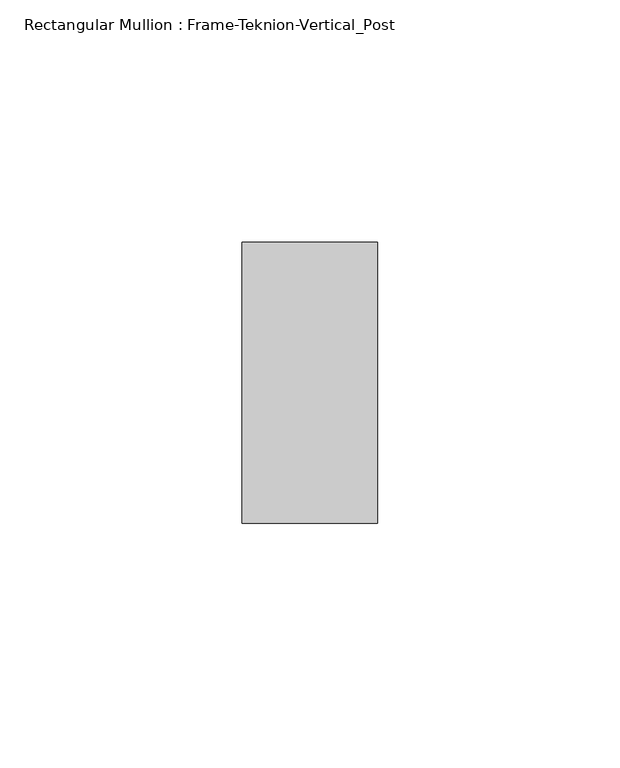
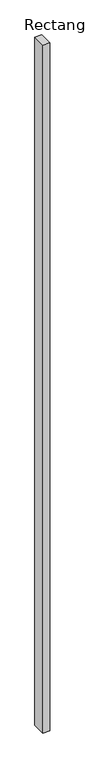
"""IFC4 building model written with IfcOpenShell, lengths in millimetres: member geometry, Rectangular Mullion : Frame-Teknion-Vertical_Post."""

import ifcopenshell
import ifcopenshell.guid

model = None  # the IFC model being written
_history = None  # IfcOwnerHistory: only IFC2X3 demands one
_inside = {}  # id of a spatial element -> (the spatial element, [elements in it])
_under = {}  # id of a project, library or spatial element -> (it, [spatial elements below it])
_declared = {}  # id of a project -> (the project, [libraries it declares])
_typed = {}  # id of a type object -> (the type object, [elements of that type])
_made_of = {}  # id of a material, layer set ... -> (it, [elements and type objects made of it])


def new_model(schema):
    """Start an empty IFC model of exactly this schema.

    Asked for "IFC4X3", IfcOpenShell would pick the latest addendum, in which some entities
    have other attributes; the version numbers below select the first issue.
    IFC2X3 requires an IfcOwnerHistory on every rooted entity: one is made here for all.
    """
    global model, _history
    if schema == "IFC4X3":
        model = ifcopenshell.file(schema_version=(4, 3, 0, 0))
    else:
        model = ifcopenshell.file(schema=schema)
    _inside.clear()
    _under.clear()
    _declared.clear()
    _typed.clear()
    _made_of.clear()
    _history = None
    if model.schema == "IFC2X3":
        org = make("IfcOrganization", Name="unknown")
        user = make(
            "IfcPersonAndOrganization",
            ThePerson=make("IfcPerson", FamilyName="unknown"),
            TheOrganization=org,
        )
        app = make(
            "IfcApplication",
            ApplicationDeveloper=org,
            Version="unknown",
            ApplicationFullName="unknown",
            ApplicationIdentifier="unknown",
        )
        _history = make(
            "IfcOwnerHistory",
            OwningUser=user,
            OwningApplication=app,
            ChangeAction="ADDED",
            CreationDate=0,
        )
    return model


def make(cls, **values):
    """One entity of the class cls with the attributes given. An attribute that is None is left unset."""
    return model.create_entity(
        cls, **{name: value for name, value in values.items() if value is not None}
    )


def rooted(cls, **values):
    """An entity with a GlobalId (a new one), such as an element, a storey or a relation."""
    return make(cls, GlobalId=ifcopenshell.guid.new(), OwnerHistory=_history, **values)


def si_unit(unit_type, name, prefix=None):
    """IfcSIUnit, for example si_unit("LENGTHUNIT", "METRE", prefix="MILLI")."""
    return make("IfcSIUnit", UnitType=unit_type, Prefix=prefix, Name=name)


def assignment(units):
    """IfcUnitAssignment: the units of a project."""
    return None if units is None else make("IfcUnitAssignment", Units=units)


def point(xyz):
    """IfcCartesianPoint."""
    return None if xyz is None else make("IfcCartesianPoint", Coordinates=xyz)


def direction(xyz):
    """IfcDirection."""
    return None if xyz is None else make("IfcDirection", DirectionRatios=xyz)


def frame(location, z_axis=None, x_axis=None):
    """IfcAxis2Placement3D, a coordinate frame: its origin and axes. An axis left out is left unset."""
    return make(
        "IfcAxis2Placement3D",
        Location=point(location),
        Axis=direction(z_axis),
        RefDirection=direction(x_axis),
    )


def origin():
    """The frame at (0, 0, 0) with its axes left unset."""
    return frame((0.0, 0.0, 0.0))


def place(relative_to, where):
    """IfcLocalPlacement: puts the frame where relative to a parent placement (None: the world)."""
    return make(
        "IfcLocalPlacement", PlacementRelTo=relative_to, RelativePlacement=where
    )


def context(
    kind, dimensions, precision=None, world=None, true_north=None, identifier=None
):
    """IfcGeometricRepresentationContext, for example the 3D "Model" context."""
    return make(
        "IfcGeometricRepresentationContext",
        ContextIdentifier=identifier,
        ContextType=kind,
        CoordinateSpaceDimension=dimensions,
        Precision=precision,
        WorldCoordinateSystem=world,
        TrueNorth=true_north,
    )


def project(units=None, contexts=None):
    """IfcProject with its units and contexts."""
    return rooted(
        "IfcProject",
        Name="project",
        RepresentationContexts=contexts,
        UnitsInContext=assignment(units),
    )


def spatial(cls, under=None, at=None, **own):
    """A site, building, storey or space (cls), placed at a placement, below another one or the project."""
    s = rooted(cls, ObjectPlacement=at, **own)
    if under is not None:
        _under.setdefault(under.id(), (under, []))[1].append(s)
    return s


def polyline(points):
    """IfcPolyline through the points."""
    return make("IfcPolyline", Points=[point(p) for p in points])


def outline(outer, holes=None, kind="AREA"):
    """IfcArbitraryClosedProfileDef: a profile drawn as a closed curve; with holes, ...WithVoids."""
    if holes is None:
        return make("IfcArbitraryClosedProfileDef", ProfileType=kind, OuterCurve=outer)
    return make(
        "IfcArbitraryProfileDefWithVoids",
        ProfileType=kind,
        OuterCurve=outer,
        InnerCurves=holes,
    )


def extrude(swept, where, along, depth):
    """IfcExtrudedAreaSolid: the profile swept, set in the frame where, extruded along a direction by depth."""
    return make(
        "IfcExtrudedAreaSolid",
        SweptArea=swept,
        Position=where,
        ExtrudedDirection=direction(along),
        Depth=depth,
    )


def shape(context_of_items, identifier, shape_type, items):
    """IfcShapeRepresentation: the items that make up one representation, for example the "Body"."""
    return make(
        "IfcShapeRepresentation",
        ContextOfItems=context_of_items,
        RepresentationIdentifier=identifier,
        RepresentationType=shape_type,
        Items=items,
    )


def source(mapping_origin, context_of_items, identifier, shape_type, items):
    """IfcRepresentationMap: a shape defined once, which mapped items show again and again."""
    return make(
        "IfcRepresentationMap",
        MappingOrigin=mapping_origin,
        MappedRepresentation=shape(context_of_items, identifier, shape_type, items),
    )


def transform(
    local_origin,
    x_axis=None,
    y_axis=None,
    z_axis=None,
    scale=None,
    scale2=None,
    scale3=None,
    uniform=True,
):
    """IfcCartesianTransformationOperator3D, or its non-uniform kind. x_axis, y_axis, z_axis: its Axis1, 2, 3."""
    if uniform:
        return make(
            "IfcCartesianTransformationOperator3D",
            Axis1=direction(x_axis),
            Axis2=direction(y_axis),
            LocalOrigin=point(local_origin),
            Scale=scale,
            Axis3=direction(z_axis),
        )
    return make(
        "IfcCartesianTransformationOperator3DnonUniform",
        Axis1=direction(x_axis),
        Axis2=direction(y_axis),
        LocalOrigin=point(local_origin),
        Scale=scale,
        Axis3=direction(z_axis),
        Scale2=scale2,
        Scale3=scale3,
    )


def mapped(mapping_source, mapping_target):
    """IfcMappedItem: shows the shape of a source again, moved by a transform."""
    return make(
        "IfcMappedItem", MappingSource=mapping_source, MappingTarget=mapping_target
    )


def made_of(thing, what):
    """Note that an element or type object is made of a material, layer set ...; save() writes the relation."""
    if what is not None:
        _made_of.setdefault(what.id(), (what, []))[1].append(thing)
    return thing


def element(
    cls,
    number,
    at=None,
    inside=None,
    cuts=None,
    type_object=None,
    material=None,
    context=None,
    identifier="Body",
    shape_type=None,
    held_by="IfcProductDefinitionShape",
    body=None,
    shapes=None,
    **own,
):
    """One element of the class cls, such as IfcWall. Its Tag is "e" and its number.

    at: its placement. inside: the storey or other place that contains it. cuts: it is an
    opening in that element (IfcRelVoidsElement). A single representation is given by context,
    identifier, shape_type and body (its items); several are given by shapes. held_by: the class
    of the entity that holds the representations. save() writes the other relations.
    """
    e = rooted(cls, Tag="e%d" % number, ObjectPlacement=at, **own)
    if body is not None:
        shapes = [shape(context, identifier, shape_type, body)]
    if shapes is not None:
        e.Representation = make(held_by, Representations=shapes)
    if inside is not None:
        _inside.setdefault(inside.id(), (inside, []))[1].append(e)
    if cuts is not None:
        rooted(
            "IfcRelVoidsElement", RelatingBuildingElement=cuts, RelatedOpeningElement=e
        )
    if type_object is not None:
        _typed.setdefault(type_object.id(), (type_object, []))[1].append(e)
    return made_of(e, material)


def aggregate(whole, parts):
    """IfcRelAggregates: a whole, such as a stair, and the parts it consists of."""
    return rooted("IfcRelAggregates", RelatingObject=whole, RelatedObjects=parts)


def save(model, path):
    """Write the relations noted so far, then the file.

    IfcRelAggregates (storeys below a building ...), IfcRelContainedInSpatialStructure (elements
    in a storey), IfcRelDefinesByType, IfcRelAssociatesMaterial and IfcRelDeclares: one each for
    every whole, place, type object, material and project.
    """
    for whole, parts in _under.values():
        aggregate(whole, parts)
    for where, things in _inside.values():
        rooted(
            "IfcRelContainedInSpatialStructure",
            RelatedElements=things,
            RelatingStructure=where,
        )
    for kind, things in _typed.values():
        rooted("IfcRelDefinesByType", RelatedObjects=things, RelatingType=kind)
    for what, things in _made_of.values():
        rooted("IfcRelAssociatesMaterial", RelatedObjects=things, RelatingMaterial=what)
    for by, libraries in _declared.values():
        rooted("IfcRelDeclares", RelatingContext=by, RelatedDefinitions=libraries)
    model.write(path)


def rectangular_mullion_frame_teknion_vertical_post_1a075d46(model_context):
    return source(origin(), model_context, "Body", "SweptSolid", [
        extrude(outline(polyline([(-27.9796875, 28.971875), (0.0, 28.971875), (0.0, -28.971875), (-27.9796875, -28.971875), (-27.9796875, 28.971875)])), frame((0.0, 0.0, -3024.6835937), z_axis=(0.0, 0.0, 1.0), x_axis=(1.0, 0.0, 0.0)), (0.0, 0.0, 1.0), 3024.6835937),
    ])


if __name__ == "__main__":
    model = new_model("IFC4")
    model_context = context("Model", 3, world=origin())
    ifc_project = project(units=[si_unit("LENGTHUNIT", "METRE", prefix="MILLI")], contexts=[model_context])
    site = spatial("IfcSite", under=ifc_project)
    building = spatial("IfcBuilding", under=site)
    placement = place(None, origin())
    rectangular_mullion_frame_teknion_vertical_post_shape = rectangular_mullion_frame_teknion_vertical_post_1a075d46(model_context)
    element("IfcMember", 1, ObjectType="Rectangular Mullion : Frame-Teknion-Vertical_Post", at=placement, inside=building, context=model_context, shape_type="MappedRepresentation", body=[
        mapped(rectangular_mullion_frame_teknion_vertical_post_shape, transform((0.0, 0.0, 0.0), x_axis=(1.0, 0.0, 0.0), y_axis=(0.0, 1.0, 0.0), z_axis=(0.0, 0.0, 1.0))),
    ])
    save(model, "model.ifc")
